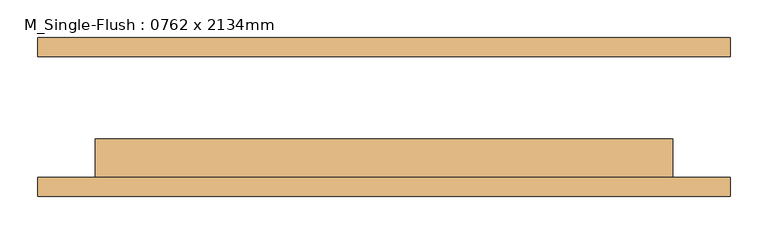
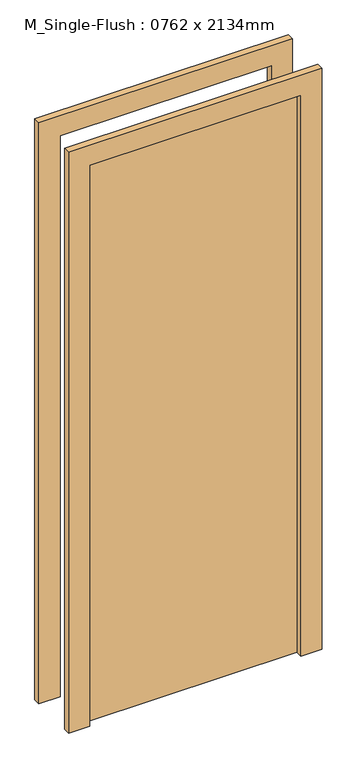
"""IFC4 building model written with IfcOpenShell, lengths in millimetres: door geometry, M_Single-Flush : 0762 x 2134mm."""

from ifc_helpers import new_model, si_unit, frame, origin, origin_with_axes, place, context, project, spatial, polyline, outline, extrude, source, transform, mapped, element, save


def m_single_flush_0762_x_2134mm_6e0fa8c7(model_context):
    return source(origin(), model_context, "Body", "SweptSolid", [
        extrude(outline(polyline([(2210.0, -457.0), (0.0, -457.0), (0.0, -381.0), (2134.0, -381.0), (2134.0, 381.0), (0.0, 381.0), (0.0, 457.0), (2210.0, 457.0), (2210.0, -457.0)])), frame((0.0, -105.0, 0.0), z_axis=(0.0, 1.0, 0.0), x_axis=(0.0, 0.0, 1.0)), (0.0, 0.0, 1.0), 25.0),
        extrude(outline(polyline([(2210.0, 457.0), (2210.0, -457.0), (0.0, -457.0), (0.0, -381.0), (2134.0, -381.0), (2134.0, 381.0), (0.0, 381.0), (0.0, 457.0), (2210.0, 457.0)])), frame((0.0, 80.0, 0.0), z_axis=(0.0, 1.0, 0.0), x_axis=(0.0, 0.0, 1.0)), (0.0, 0.0, 1.0), 25.0),
        extrude(outline(polyline([(381.0, -29.0), (381.0, -80.0), (-381.0, -80.0), (-381.0, -29.0), (381.0, -29.0)])), origin_with_axes(), (0.0, 0.0, 1.0), 2134.0),
    ])


if __name__ == "__main__":
    model = new_model("IFC4")
    model_context = context("Model", 3, world=origin())
    ifc_project = project(units=[si_unit("LENGTHUNIT", "METRE", prefix="MILLI")], contexts=[model_context])
    site = spatial("IfcSite", under=ifc_project)
    building = spatial("IfcBuilding", under=site)
    placement = place(None, origin())
    m_single_flush_0762_x_2134mm_shape = m_single_flush_0762_x_2134mm_6e0fa8c7(model_context)
    element("IfcDoor", 1, ObjectType="M_Single-Flush : 0762 x 2134mm", at=placement, inside=building, context=model_context, shape_type="MappedRepresentation", body=[
        mapped(m_single_flush_0762_x_2134mm_shape, transform((0.0, 0.0, 0.0), x_axis=(1.0, 0.0, 0.0), y_axis=(0.0, 1.0, 0.0), z_axis=(0.0, 0.0, 1.0))),
    ])
    save(model, "model.ifc")
